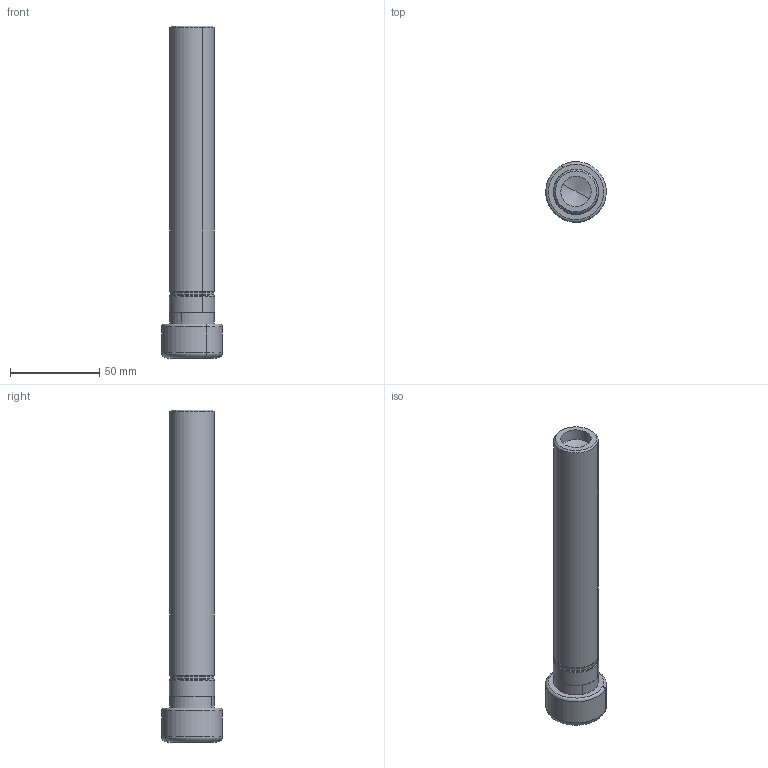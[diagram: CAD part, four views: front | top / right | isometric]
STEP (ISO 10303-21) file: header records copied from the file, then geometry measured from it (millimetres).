
FILE_DESCRIPTION(('CATIA V5 STEP','CAx-IF Rec.Pracs.--- Model Styling and Organization---1.2---2011-12-15'),'2;1');
FILE_NAME('\\nas01\drv1\utils\eitdev\rte\eit\transmagicconvert\db\out\635964752092058993\4507006-L-M.stp','2016-04-17T04:33:42+00:00',('none'),('none'),'CATIA Version 5 Release 21 SP 5 (IN-10)','CATIA V5 STEP AP214','none');
FILE_SCHEMA(('AUTOMOTIVE_DESIGN { 1 0 10303 214 1 1 1 1 }'));
Length unit declared in the file: millimetre
Products named in the file (1): ST 25X150 ER20
Bounding box: 33.99 x 33.99 x 186 mm (x, y, z)
Volume: 87520 mm3; surface area: 19413.4 mm2
Topology: 1 solids, 1 shells, 47 faces, 100 edges, 57 vertices
Faces by surface type: cylinder 20, cone 14, torus 8, plane 5
Entity records: 1128 total; most frequent: ORIENTED_EDGE 196, CARTESIAN_POINT 186, DIRECTION 158, EDGE_CURVE 98, AXIS2_PLACEMENT_3D 95, CIRCLE 64, VERTEX_POINT 57, EDGE_LOOP 51
